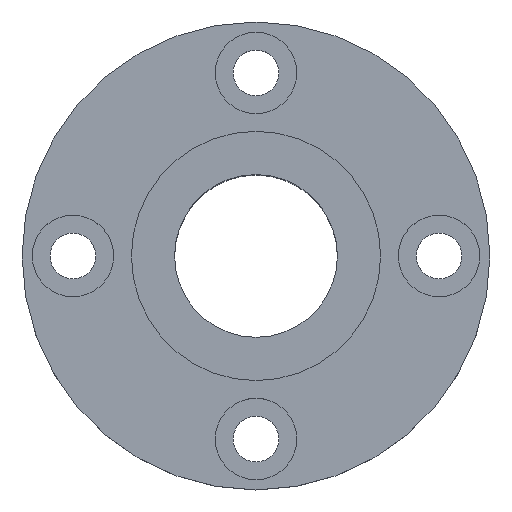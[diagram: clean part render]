
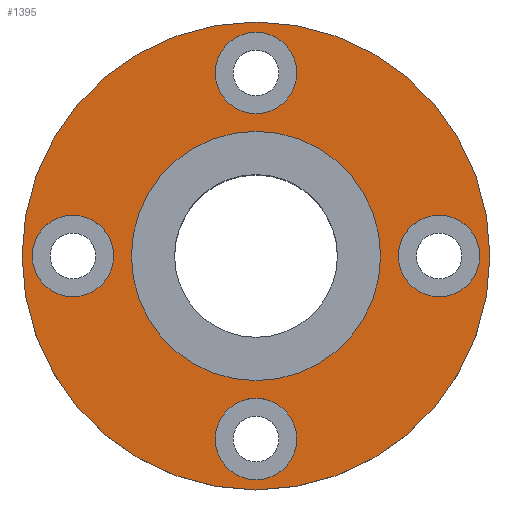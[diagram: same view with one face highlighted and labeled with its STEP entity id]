
A CAD part, top view. The second image highlights one B-rep face of the part: STEP entity #1395.
In plain terms, the highlighted planar face has unit normal (0, 0, 1).
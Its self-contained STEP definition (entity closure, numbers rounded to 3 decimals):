
#133=CARTESIAN_POINT('',(-12.25,0.,18.0));
#134=VERTEX_POINT('',#133);
#143=CARTESIAN_POINT('',(12.25,0.,18.0));
#144=VERTEX_POINT('',#143);
#145=CARTESIAN_POINT('',(0.0,0.0,18.0));
#146=DIRECTION('',(0.0,0.0,-1.0));
#147=DIRECTION('',(-1.0,0.0,0.0));
#148=AXIS2_PLACEMENT_3D('',#145,#146,#147);
#149=CIRCLE('',#148,12.25);
#150=EDGE_CURVE('',#144,#134,#149,.T.);
#217=CARTESIAN_POINT('',(-23.,0.,18.0));
#218=VERTEX_POINT('',#217);
#227=CARTESIAN_POINT('',(23.,0.,18.0));
#228=VERTEX_POINT('',#227);
#229=CARTESIAN_POINT('',(0.0,0.0,18.0));
#230=DIRECTION('',(0.0,0.0,-1.0));
#231=DIRECTION('',(-1.0,0.0,0.0));
#232=AXIS2_PLACEMENT_3D('',#229,#230,#231);
#233=CIRCLE('',#232,23.);
#234=EDGE_CURVE('',#218,#228,#233,.T.);
#345=CARTESIAN_POINT('',(22.0,0.0,18.0));
#346=VERTEX_POINT('',#345);
#362=CARTESIAN_POINT('',(14.0,0.,18.0));
#363=VERTEX_POINT('',#362);
#370=CARTESIAN_POINT('',(18.0,0.0,18.0));
#371=DIRECTION('',(0.0,0.0,-1.0));
#372=DIRECTION('',(1.0,0.0,0.0));
#373=AXIS2_PLACEMENT_3D('',#370,#371,#372);
#374=CIRCLE('',#373,4.0);
#375=EDGE_CURVE('',#346,#363,#374,.T.);
#471=CARTESIAN_POINT('',(0.,22.0,18.0));
#472=VERTEX_POINT('',#471);
#488=CARTESIAN_POINT('',(0.,14.0,18.0));
#489=VERTEX_POINT('',#488);
#496=CARTESIAN_POINT('',(0.,18.0,18.0));
#497=DIRECTION('',(0.0,0.0,-1.0));
#498=DIRECTION('',(0.0,1.0,0.0));
#499=AXIS2_PLACEMENT_3D('',#496,#497,#498);
#500=CIRCLE('',#499,4.0);
#501=EDGE_CURVE('',#472,#489,#500,.T.);
#597=CARTESIAN_POINT('',(-22.0,0.,18.0));
#598=VERTEX_POINT('',#597);
#614=CARTESIAN_POINT('',(-14.0,0.,18.0));
#615=VERTEX_POINT('',#614);
#622=CARTESIAN_POINT('',(-18.0,0.,18.0));
#623=DIRECTION('',(0.0,0.0,-1.0));
#624=DIRECTION('',(-1.0,0.0,0.0));
#625=AXIS2_PLACEMENT_3D('',#622,#623,#624);
#626=CIRCLE('',#625,4.0);
#627=EDGE_CURVE('',#598,#615,#626,.T.);
#723=CARTESIAN_POINT('',(0.,-22.0,18.0));
#724=VERTEX_POINT('',#723);
#740=CARTESIAN_POINT('',(0.,-14.0,18.0));
#741=VERTEX_POINT('',#740);
#748=CARTESIAN_POINT('',(0.,-18.0,18.0));
#749=DIRECTION('',(0.0,0.0,-1.0));
#750=DIRECTION('',(0.0,-1.0,0.0));
#751=AXIS2_PLACEMENT_3D('',#748,#749,#750);
#752=CIRCLE('',#751,4.0);
#753=EDGE_CURVE('',#724,#741,#752,.T.);
#811=CARTESIAN_POINT('',(0.,-18.0,18.0));
#812=DIRECTION('',(0.0,0.0,-1.0));
#813=DIRECTION('',(0.0,-1.0,0.0));
#814=AXIS2_PLACEMENT_3D('',#811,#812,#813);
#815=CIRCLE('',#814,4.0);
#816=EDGE_CURVE('',#741,#724,#815,.T.);
#915=CARTESIAN_POINT('',(-18.0,0.,18.0));
#916=DIRECTION('',(0.0,0.0,-1.0));
#917=DIRECTION('',(-1.0,0.0,0.0));
#918=AXIS2_PLACEMENT_3D('',#915,#916,#917);
#919=CIRCLE('',#918,4.0);
#920=EDGE_CURVE('',#615,#598,#919,.T.);
#1019=CARTESIAN_POINT('',(0.,18.0,18.0));
#1020=DIRECTION('',(0.0,0.0,-1.0));
#1021=DIRECTION('',(0.0,1.0,0.0));
#1022=AXIS2_PLACEMENT_3D('',#1019,#1020,#1021);
#1023=CIRCLE('',#1022,4.0);
#1024=EDGE_CURVE('',#489,#472,#1023,.T.);
#1123=CARTESIAN_POINT('',(18.0,0.0,18.0));
#1124=DIRECTION('',(0.0,0.0,-1.0));
#1125=DIRECTION('',(1.0,0.0,0.0));
#1126=AXIS2_PLACEMENT_3D('',#1123,#1124,#1125);
#1127=CIRCLE('',#1126,4.0);
#1128=EDGE_CURVE('',#363,#346,#1127,.T.);
#1188=CARTESIAN_POINT('',(0.0,0.0,18.0));
#1189=DIRECTION('',(0.0,0.0,-1.0));
#1190=DIRECTION('',(-1.0,0.0,0.0));
#1191=AXIS2_PLACEMENT_3D('',#1188,#1189,#1190);
#1192=CIRCLE('',#1191,23.);
#1193=EDGE_CURVE('',#228,#218,#1192,.T.);
#1306=CARTESIAN_POINT('',(0.0,0.0,18.0));
#1307=DIRECTION('',(0.0,0.0,-1.0));
#1308=DIRECTION('',(-1.0,0.0,0.0));
#1309=AXIS2_PLACEMENT_3D('',#1306,#1307,#1308);
#1310=CIRCLE('',#1309,12.25);
#1311=EDGE_CURVE('',#134,#144,#1310,.T.);
#1366=CARTESIAN_POINT('',(0.0,0.0,18.0));
#1367=DIRECTION('',(0.0,0.0,-1.0));
#1368=DIRECTION('',(-1.0,0.0,0.0));
#1369=AXIS2_PLACEMENT_3D('',#1366,#1367,#1368);
#1370=PLANE('',#1369);
#1371=ORIENTED_EDGE('',*,*,#1193,.F.);
#1372=ORIENTED_EDGE('',*,*,#234,.F.);
#1373=EDGE_LOOP('',(#1371,#1372));
#1374=FACE_OUTER_BOUND('',#1373,.T.);
#1375=ORIENTED_EDGE('',*,*,#753,.T.);
#1376=ORIENTED_EDGE('',*,*,#816,.T.);
#1377=EDGE_LOOP('',(#1375,#1376));
#1378=FACE_BOUND('',#1377,.T.);
#1379=ORIENTED_EDGE('',*,*,#627,.T.);
#1380=ORIENTED_EDGE('',*,*,#920,.T.);
#1381=EDGE_LOOP('',(#1379,#1380));
#1382=FACE_BOUND('',#1381,.T.);
#1383=ORIENTED_EDGE('',*,*,#501,.T.);
#1384=ORIENTED_EDGE('',*,*,#1024,.T.);
#1385=EDGE_LOOP('',(#1383,#1384));
#1386=FACE_BOUND('',#1385,.T.);
#1387=ORIENTED_EDGE('',*,*,#375,.T.);
#1388=ORIENTED_EDGE('',*,*,#1128,.T.);
#1389=EDGE_LOOP('',(#1387,#1388));
#1390=FACE_BOUND('',#1389,.T.);
#1391=ORIENTED_EDGE('',*,*,#150,.T.);
#1392=ORIENTED_EDGE('',*,*,#1311,.T.);
#1393=EDGE_LOOP('',(#1391,#1392));
#1394=FACE_BOUND('',#1393,.T.);
#1395=ADVANCED_FACE('',(#1374,#1378,#1382,#1386,#1390,#1394),#1370,.F.);
